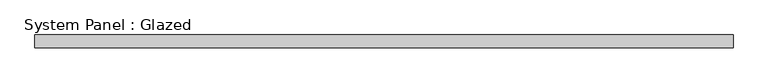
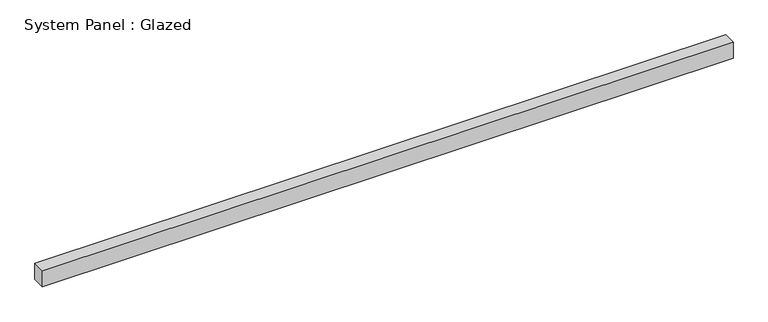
"""IFC4 building model written with IfcOpenShell, lengths in millimetres: plate geometry, System Panel : Glazed."""

import ifcopenshell
import ifcopenshell.guid

model = None  # the IFC model being written
_history = None  # IfcOwnerHistory: only IFC2X3 demands one
_inside = {}  # id of a spatial element -> (the spatial element, [elements in it])
_under = {}  # id of a project, library or spatial element -> (it, [spatial elements below it])
_declared = {}  # id of a project -> (the project, [libraries it declares])
_typed = {}  # id of a type object -> (the type object, [elements of that type])
_made_of = {}  # id of a material, layer set ... -> (it, [elements and type objects made of it])


def new_model(schema):
    """Start an empty IFC model of exactly this schema.

    Asked for "IFC4X3", IfcOpenShell would pick the latest addendum, in which some entities
    have other attributes; the version numbers below select the first issue.
    IFC2X3 requires an IfcOwnerHistory on every rooted entity: one is made here for all.
    """
    global model, _history
    if schema == "IFC4X3":
        model = ifcopenshell.file(schema_version=(4, 3, 0, 0))
    else:
        model = ifcopenshell.file(schema=schema)
    _inside.clear()
    _under.clear()
    _declared.clear()
    _typed.clear()
    _made_of.clear()
    _history = None
    if model.schema == "IFC2X3":
        org = make("IfcOrganization", Name="unknown")
        user = make(
            "IfcPersonAndOrganization",
            ThePerson=make("IfcPerson", FamilyName="unknown"),
            TheOrganization=org,
        )
        app = make(
            "IfcApplication",
            ApplicationDeveloper=org,
            Version="unknown",
            ApplicationFullName="unknown",
            ApplicationIdentifier="unknown",
        )
        _history = make(
            "IfcOwnerHistory",
            OwningUser=user,
            OwningApplication=app,
            ChangeAction="ADDED",
            CreationDate=0,
        )
    return model


def make(cls, **values):
    """One entity of the class cls with the attributes given. An attribute that is None is left unset."""
    return model.create_entity(
        cls, **{name: value for name, value in values.items() if value is not None}
    )


def rooted(cls, **values):
    """An entity with a GlobalId (a new one), such as an element, a storey or a relation."""
    return make(cls, GlobalId=ifcopenshell.guid.new(), OwnerHistory=_history, **values)


def si_unit(unit_type, name, prefix=None):
    """IfcSIUnit, for example si_unit("LENGTHUNIT", "METRE", prefix="MILLI")."""
    return make("IfcSIUnit", UnitType=unit_type, Prefix=prefix, Name=name)


def assignment(units):
    """IfcUnitAssignment: the units of a project."""
    return None if units is None else make("IfcUnitAssignment", Units=units)


def point(xyz):
    """IfcCartesianPoint."""
    return None if xyz is None else make("IfcCartesianPoint", Coordinates=xyz)


def direction(xyz):
    """IfcDirection."""
    return None if xyz is None else make("IfcDirection", DirectionRatios=xyz)


def frame(location, z_axis=None, x_axis=None):
    """IfcAxis2Placement3D, a coordinate frame: its origin and axes. An axis left out is left unset."""
    return make(
        "IfcAxis2Placement3D",
        Location=point(location),
        Axis=direction(z_axis),
        RefDirection=direction(x_axis),
    )


def origin():
    """The frame at (0, 0, 0) with its axes left unset."""
    return frame((0.0, 0.0, 0.0))


def origin_with_axes():
    """The frame at (0, 0, 0) with the z axis (0, 0, 1) and the x axis (1, 0, 0) written out."""
    return frame((0.0, 0.0, 0.0), z_axis=(0.0, 0.0, 1.0), x_axis=(1.0, 0.0, 0.0))


def place(relative_to, where):
    """IfcLocalPlacement: puts the frame where relative to a parent placement (None: the world)."""
    return make(
        "IfcLocalPlacement", PlacementRelTo=relative_to, RelativePlacement=where
    )


def context(
    kind, dimensions, precision=None, world=None, true_north=None, identifier=None
):
    """IfcGeometricRepresentationContext, for example the 3D "Model" context."""
    return make(
        "IfcGeometricRepresentationContext",
        ContextIdentifier=identifier,
        ContextType=kind,
        CoordinateSpaceDimension=dimensions,
        Precision=precision,
        WorldCoordinateSystem=world,
        TrueNorth=true_north,
    )


def project(units=None, contexts=None):
    """IfcProject with its units and contexts."""
    return rooted(
        "IfcProject",
        Name="project",
        RepresentationContexts=contexts,
        UnitsInContext=assignment(units),
    )


def spatial(cls, under=None, at=None, **own):
    """A site, building, storey or space (cls), placed at a placement, below another one or the project."""
    s = rooted(cls, ObjectPlacement=at, **own)
    if under is not None:
        _under.setdefault(under.id(), (under, []))[1].append(s)
    return s


def polyline(points):
    """IfcPolyline through the points."""
    return make("IfcPolyline", Points=[point(p) for p in points])


def outline(outer, holes=None, kind="AREA"):
    """IfcArbitraryClosedProfileDef: a profile drawn as a closed curve; with holes, ...WithVoids."""
    if holes is None:
        return make("IfcArbitraryClosedProfileDef", ProfileType=kind, OuterCurve=outer)
    return make(
        "IfcArbitraryProfileDefWithVoids",
        ProfileType=kind,
        OuterCurve=outer,
        InnerCurves=holes,
    )


def extrude(swept, where, along, depth):
    """IfcExtrudedAreaSolid: the profile swept, set in the frame where, extruded along a direction by depth."""
    return make(
        "IfcExtrudedAreaSolid",
        SweptArea=swept,
        Position=where,
        ExtrudedDirection=direction(along),
        Depth=depth,
    )


def shape(context_of_items, identifier, shape_type, items):
    """IfcShapeRepresentation: the items that make up one representation, for example the "Body"."""
    return make(
        "IfcShapeRepresentation",
        ContextOfItems=context_of_items,
        RepresentationIdentifier=identifier,
        RepresentationType=shape_type,
        Items=items,
    )


def source(mapping_origin, context_of_items, identifier, shape_type, items):
    """IfcRepresentationMap: a shape defined once, which mapped items show again and again."""
    return make(
        "IfcRepresentationMap",
        MappingOrigin=mapping_origin,
        MappedRepresentation=shape(context_of_items, identifier, shape_type, items),
    )


def transform(
    local_origin,
    x_axis=None,
    y_axis=None,
    z_axis=None,
    scale=None,
    scale2=None,
    scale3=None,
    uniform=True,
):
    """IfcCartesianTransformationOperator3D, or its non-uniform kind. x_axis, y_axis, z_axis: its Axis1, 2, 3."""
    if uniform:
        return make(
            "IfcCartesianTransformationOperator3D",
            Axis1=direction(x_axis),
            Axis2=direction(y_axis),
            LocalOrigin=point(local_origin),
            Scale=scale,
            Axis3=direction(z_axis),
        )
    return make(
        "IfcCartesianTransformationOperator3DnonUniform",
        Axis1=direction(x_axis),
        Axis2=direction(y_axis),
        LocalOrigin=point(local_origin),
        Scale=scale,
        Axis3=direction(z_axis),
        Scale2=scale2,
        Scale3=scale3,
    )


def mapped(mapping_source, mapping_target):
    """IfcMappedItem: shows the shape of a source again, moved by a transform."""
    return make(
        "IfcMappedItem", MappingSource=mapping_source, MappingTarget=mapping_target
    )


def made_of(thing, what):
    """Note that an element or type object is made of a material, layer set ...; save() writes the relation."""
    if what is not None:
        _made_of.setdefault(what.id(), (what, []))[1].append(thing)
    return thing


def element(
    cls,
    number,
    at=None,
    inside=None,
    cuts=None,
    type_object=None,
    material=None,
    context=None,
    identifier="Body",
    shape_type=None,
    held_by="IfcProductDefinitionShape",
    body=None,
    shapes=None,
    **own,
):
    """One element of the class cls, such as IfcWall. Its Tag is "e" and its number.

    at: its placement. inside: the storey or other place that contains it. cuts: it is an
    opening in that element (IfcRelVoidsElement). A single representation is given by context,
    identifier, shape_type and body (its items); several are given by shapes. held_by: the class
    of the entity that holds the representations. save() writes the other relations.
    """
    e = rooted(cls, Tag="e%d" % number, ObjectPlacement=at, **own)
    if body is not None:
        shapes = [shape(context, identifier, shape_type, body)]
    if shapes is not None:
        e.Representation = make(held_by, Representations=shapes)
    if inside is not None:
        _inside.setdefault(inside.id(), (inside, []))[1].append(e)
    if cuts is not None:
        rooted(
            "IfcRelVoidsElement", RelatingBuildingElement=cuts, RelatedOpeningElement=e
        )
    if type_object is not None:
        _typed.setdefault(type_object.id(), (type_object, []))[1].append(e)
    return made_of(e, material)


def aggregate(whole, parts):
    """IfcRelAggregates: a whole, such as a stair, and the parts it consists of."""
    return rooted("IfcRelAggregates", RelatingObject=whole, RelatedObjects=parts)


def save(model, path):
    """Write the relations noted so far, then the file.

    IfcRelAggregates (storeys below a building ...), IfcRelContainedInSpatialStructure (elements
    in a storey), IfcRelDefinesByType, IfcRelAssociatesMaterial and IfcRelDeclares: one each for
    every whole, place, type object, material and project.
    """
    for whole, parts in _under.values():
        aggregate(whole, parts)
    for where, things in _inside.values():
        rooted(
            "IfcRelContainedInSpatialStructure",
            RelatedElements=things,
            RelatingStructure=where,
        )
    for kind, things in _typed.values():
        rooted("IfcRelDefinesByType", RelatedObjects=things, RelatingType=kind)
    for what, things in _made_of.values():
        rooted("IfcRelAssociatesMaterial", RelatedObjects=things, RelatingMaterial=what)
    for by, libraries in _declared.values():
        rooted("IfcRelDeclares", RelatingContext=by, RelatedDefinitions=libraries)
    model.write(path)


def system_panel_glazed_f43e7dcf(model_context):
    return source(origin(), model_context, "Body", "SweptSolid", [
        extrude(outline(polyline([(673.7000001, 24.5), (-673.7000001, 24.5), (-673.7000001, 49.5), (673.7000001, 49.5), (673.7000001, 24.5)])), origin_with_axes(), (0.0, 0.0, 1.0), 33.25),
    ])


if __name__ == "__main__":
    model = new_model("IFC4")
    model_context = context("Model", 3, world=origin())
    ifc_project = project(units=[si_unit("LENGTHUNIT", "METRE", prefix="MILLI")], contexts=[model_context])
    site = spatial("IfcSite", under=ifc_project)
    building = spatial("IfcBuilding", under=site)
    placement = place(None, origin())
    system_panel_glazed_shape = system_panel_glazed_f43e7dcf(model_context)
    element("IfcPlate", 1, ObjectType="System Panel : Glazed", at=placement, inside=building, context=model_context, shape_type="MappedRepresentation", body=[
        mapped(system_panel_glazed_shape, transform((0.0, 0.0, 0.0), x_axis=(1.0, 0.0, 0.0), y_axis=(0.0, 1.0, 0.0), z_axis=(0.0, 0.0, 1.0))),
    ])
    save(model, "model.ifc")
